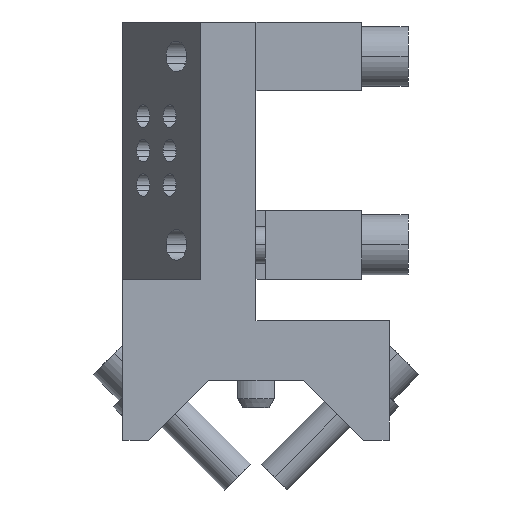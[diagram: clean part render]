
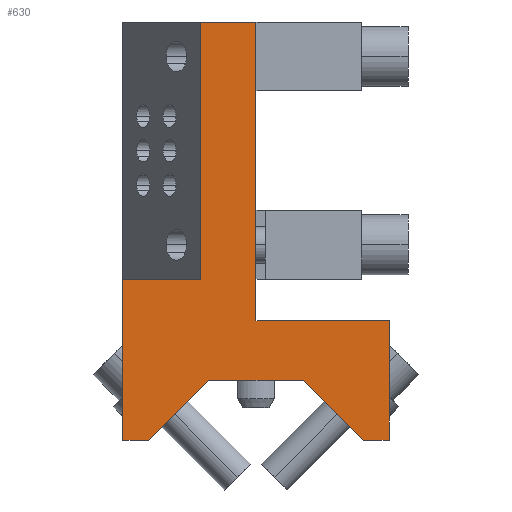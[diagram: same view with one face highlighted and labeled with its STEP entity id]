
A CAD part, left-side view. The second image highlights one B-rep face of the part: STEP entity #630.
In plain terms, the highlighted planar face has unit normal (-1, 0, 0).
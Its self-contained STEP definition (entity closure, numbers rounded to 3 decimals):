
#630=ADVANCED_FACE('Pad.5',(#1527),#1528,.T.);
#1527=FACE_OUTER_BOUND('',#2834,.T.);
#1528=PLANE('',#2835);
#2834=EDGE_LOOP('',(#4359,#4360,#4361,#4362,#4363,#4364,#4365,#4366,#4367,#4368,#4369,#4370));
#2835=AXIS2_PLACEMENT_3D('',#4371,#4372,#4373);
#4359=ORIENTED_EDGE('',*,*,#7735,.F.);
#4360=ORIENTED_EDGE('',*,*,#7736,.T.);
#4361=ORIENTED_EDGE('',*,*,#7737,.T.);
#4362=ORIENTED_EDGE('',*,*,#7738,.T.);
#4363=ORIENTED_EDGE('',*,*,#7739,.T.);
#4364=ORIENTED_EDGE('',*,*,#7723,.T.);
#4365=ORIENTED_EDGE('',*,*,#7740,.T.);
#4366=ORIENTED_EDGE('',*,*,#7741,.T.);
#4367=ORIENTED_EDGE('',*,*,#7742,.T.);
#4368=ORIENTED_EDGE('',*,*,#7743,.T.);
#4369=ORIENTED_EDGE('',*,*,#7744,.T.);
#4370=ORIENTED_EDGE('',*,*,#7745,.F.);
#4371=CARTESIAN_POINT('',(-14.0,0.0,0.0));
#4372=DIRECTION('',(-1.0,0.0,0.0));
#4373=DIRECTION('',(0.0,-1.0,0.0));
#7723=EDGE_CURVE('',#9292,#9296,#9298,.F.);
#7735=EDGE_CURVE('',#9313,#9314,#9315,.T.);
#7736=EDGE_CURVE('',#9313,#9316,#9317,.T.);
#7737=EDGE_CURVE('',#9316,#9318,#9319,.F.);
#7738=EDGE_CURVE('',#9318,#9320,#9321,.F.);
#7739=EDGE_CURVE('',#9320,#9292,#9322,.F.);
#7740=EDGE_CURVE('',#9296,#9323,#9324,.F.);
#7741=EDGE_CURVE('',#9323,#9325,#9326,.F.);
#7742=EDGE_CURVE('',#9325,#9327,#9328,.T.);
#7743=EDGE_CURVE('',#9327,#9329,#9330,.T.);
#7744=EDGE_CURVE('',#9329,#9331,#9332,.F.);
#7745=EDGE_CURVE('',#9314,#9331,#9333,.F.);
#9292=VERTEX_POINT('',#12570);
#9296=VERTEX_POINT('',#12576);
#9298=LINE('',#12579,#12580);
#9313=VERTEX_POINT('',#12598);
#9314=VERTEX_POINT('',#12599);
#9315=LINE('',#12600,#12601);
#9316=VERTEX_POINT('',#12602);
#9317=LINE('',#12603,#12604);
#9318=VERTEX_POINT('',#12605);
#9319=LINE('',#12606,#12607);
#9320=VERTEX_POINT('',#12608);
#9321=LINE('',#12609,#12610);
#9322=LINE('',#12611,#12612);
#9323=VERTEX_POINT('',#12613);
#9324=LINE('',#12614,#12615);
#9325=VERTEX_POINT('',#12616);
#9326=LINE('',#12617,#12618);
#9327=VERTEX_POINT('',#12619);
#9328=LINE('',#12620,#12621);
#9329=VERTEX_POINT('',#12622);
#9330=LINE('',#12623,#12624);
#9331=VERTEX_POINT('',#12625);
#9332=LINE('',#12626,#12627);
#9333=LINE('',#12628,#12629);
#12570=CARTESIAN_POINT('',(-14.0,10.295,25.061));
#12576=CARTESIAN_POINT('',(-14.0,-10.295,25.061));
#12579=CARTESIAN_POINT('',(-14.0,0.,25.061));
#12580=VECTOR('',#16315,1.0);
#12598=CARTESIAN_POINT('',(-14.0,12.0,47.0));
#12599=CARTESIAN_POINT('',(-14.0,12.0,103.0));
#12600=CARTESIAN_POINT('',(-14.0,12.0,75.0));
#12601=VECTOR('',#16331,1.0);
#12602=CARTESIAN_POINT('',(-14.0,29.,47.0));
#12603=CARTESIAN_POINT('',(-14.0,20.5,47.0));
#12604=VECTOR('',#16332,1.0);
#12605=CARTESIAN_POINT('',(-14.0,29.0,12.0));
#12606=CARTESIAN_POINT('',(-14.0,29.0,29.5));
#12607=VECTOR('',#16333,1.0);
#12608=CARTESIAN_POINT('',(-14.0,23.355,12.0));
#12609=CARTESIAN_POINT('',(-14.0,26.178,12.0));
#12610=VECTOR('',#16334,1.0);
#12611=CARTESIAN_POINT('',(-14.0,16.825,18.53));
#12612=VECTOR('',#16335,1.0);
#12613=CARTESIAN_POINT('',(-14.0,-23.355,12.));
#12614=CARTESIAN_POINT('',(-14.0,-16.825,18.53));
#12615=VECTOR('',#16336,1.0);
#12616=CARTESIAN_POINT('',(-14.0,-29.,12.));
#12617=CARTESIAN_POINT('',(-14.0,-26.178,12.));
#12618=VECTOR('',#16337,1.0);
#12619=CARTESIAN_POINT('',(-14.0,-29.,38.));
#12620=CARTESIAN_POINT('',(-14.0,-29.,25.));
#12621=VECTOR('',#16338,1.0);
#12622=CARTESIAN_POINT('',(-14.0,0.0,38.0));
#12623=CARTESIAN_POINT('',(-14.0,-14.5,38.0));
#12624=VECTOR('',#16339,1.0);
#12625=CARTESIAN_POINT('',(-14.0,0.0,103.0));
#12626=CARTESIAN_POINT('',(-14.0,0.0,70.5));
#12627=VECTOR('',#16340,1.0);
#12628=CARTESIAN_POINT('',(-14.0,6.0,103.0));
#12629=VECTOR('',#16341,1.0);
#16315=DIRECTION('',(0.0,1.0,0.));
#16331=DIRECTION('',(0.0,0.0,1.0));
#16332=DIRECTION('',(0.0,1.0,0.0));
#16333=DIRECTION('',(0.0,0.0,1.0));
#16334=DIRECTION('',(0.0,1.0,0.0));
#16335=DIRECTION('',(0.0,0.707,-0.707));
#16336=DIRECTION('',(0.0,0.707,0.707));
#16337=DIRECTION('',(0.0,1.0,0.0));
#16338=DIRECTION('',(0.0,0.0,1.0));
#16339=DIRECTION('',(0.0,1.0,0.0));
#16340=DIRECTION('',(0.0,0.0,-1.0));
#16341=DIRECTION('',(0.0,1.0,0.0));
